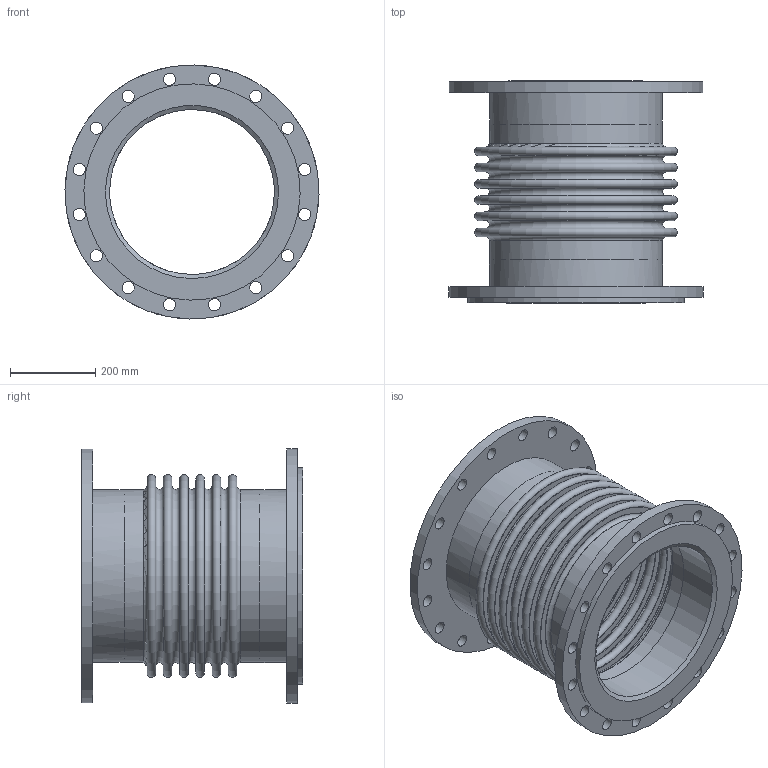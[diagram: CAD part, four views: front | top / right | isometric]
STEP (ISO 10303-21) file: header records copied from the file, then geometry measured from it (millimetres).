
FILE_DESCRIPTION(/* description */ (''),/* implementation_level */ '2;1');
FILE_NAME(/* name */ 'C:\001_Work\Designs\EFL250-ASA150LB\EFL250-16x20.5 (ASA150LB).stp',/* time_stamp */ '2016-05-15T20:58:42-04:00',/* author */ ('rramoutar'),/* organization */ ('Mason Industries Inc.'),/* preprocessor_version */ 'ST-DEVELOPER v15.6',/* originating_system */ 'Autodesk Inventor 2015',/* authorisation */ '');
FILE_SCHEMA (('CONFIG_CONTROL_DESIGN'));
Length unit declared in the file: inch
Products named in the file (1): EFL250-16x20.5-ASA150LB
Bounding box: 596.76 x 520.7 x 596.76 mm (x, y, z)
Volume: 10537312.8 mm3; surface area: 3036423.1 mm2
Topology: 1 solids, 1 shells, 105 faces, 216 edges, 144 vertices
Faces by surface type: cylinder 43, plane 33, torus 26, cone 3
Full cylindrical faces by diameter (mm): 28.575 x32, 387.35 x2, 404.368 x2, 406.4 x2, 450.85 x1, 469.9 x1, 508 x1, 596.9 x2
Entity records: 2701 total; most frequent: DIRECTION 486, CARTESIAN_POINT 380, EDGE_LOOP 274, ORIENTED_EDGE 274, AXIS2_PLACEMENT_3D 243, FACE_BOUND 169, CIRCLE 137, VERTEX_POINT 137
